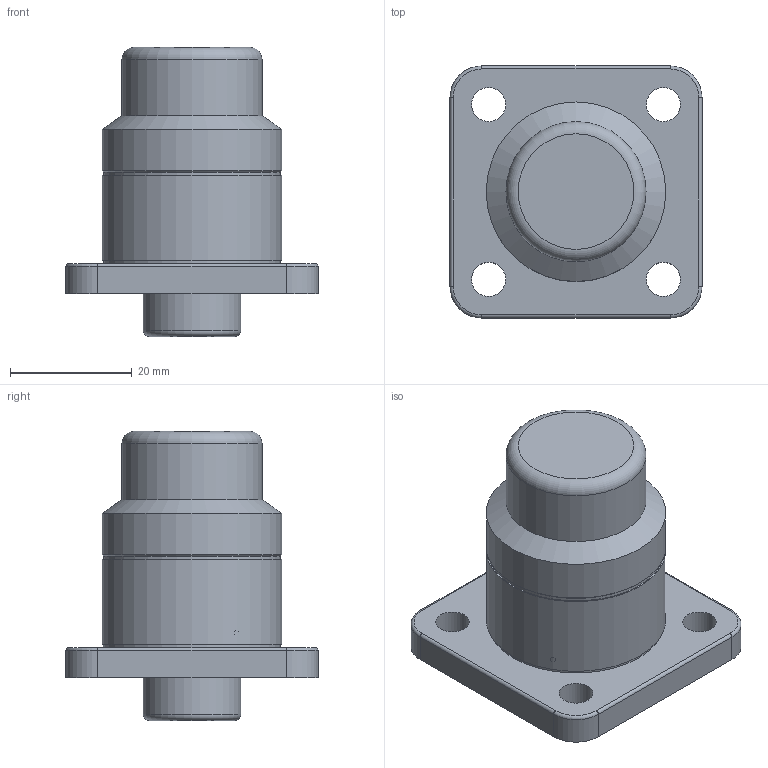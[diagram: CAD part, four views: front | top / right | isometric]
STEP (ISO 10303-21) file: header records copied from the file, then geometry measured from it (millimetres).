
FILE_DESCRIPTION(/* description */ (''),/* implementation_level */ '2;1');
FILE_NAME(/* name */ 'WL-21048-1-F--Public--v1.step',/* time_stamp */ '2024-07-29T09:45:33+02:00',/* author */ (''),/* organization */ (''),/* preprocessor_version */ 'ST-DEVELOPER v20',/* originating_system */ 'Autodesk Translation Framework v13.14.0.145',/* authorisation */ '');
FILE_SCHEMA (('AUTOMOTIVE_DESIGN { 1 0 10303 214 3 1 1 }'));
Length unit declared in the file: millimetre
Products named in the file (3): WL-52101-1-F--Public; Housing; label
Assembly tree (2 placements, depth 2):
  WL-52101-1-F--Public
    Housing
    label
Bounding box: 41.4 x 41.4 x 47.5 mm (x, y, z)
Volume: 29384.7 mm3; surface area: 10353.8 mm2
Topology: 1 solids, 2 shells, 45 faces, 90 edges, 56 vertices
Faces by surface type: cylinder 20, plane 12, torus 8, bspline 3, cone 2
Full cylindrical faces by diameter (mm): 5.59 x4, 16.002 x1, 19 x1, 23 x1, 27 x1, 29.1 x2, 29.5 x2
Entity records: 2956 total; most frequent: CARTESIAN_POINT 1876, DIRECTION 234, ORIENTED_EDGE 180, AXIS2_PLACEMENT_3D 100, EDGE_CURVE 90, EDGE_LOOP 62, VERTEX_POINT 56, CIRCLE 53
